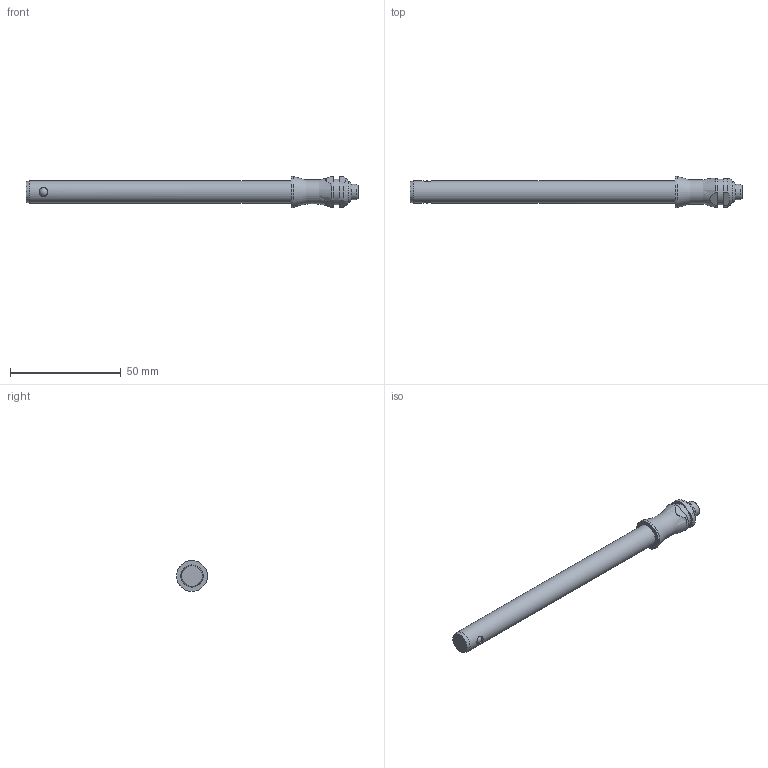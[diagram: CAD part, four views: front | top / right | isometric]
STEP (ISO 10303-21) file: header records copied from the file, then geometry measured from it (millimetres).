
FILE_DESCRIPTION( ( 'STEP AP203' ), '1' );
FILE_NAME( 'C:/Temp/Ganter_Step_05_03_2020/data/3_1/gn113_3/Stainless Steel-Ball lock pin GN 113.3-10-110 (activated).stp', '2020-03-12T08:18:39', ( 'License CC BY-ND 4.0' ), ( 'CADENAS' ), ' ', 'PARTsolutions', ' ' );
FILE_SCHEMA( ( 'CONFIG_CONTROL_DESIGN' ) );
Length unit declared in the file: millimetre
Products named in the file (1): _Stainless Steel-Ball lock pin GN 113.3-10-110 (activated)
Bounding box: 149.75 x 14 x 14 mm (x, y, z)
Volume: 12471.3 mm3; surface area: 5208.3 mm2
Topology: 1 solids, 1 shells, 30 faces, 72 edges, 45 vertices
Faces by surface type: cylinder 12, plane 11, cone 3, torus 2, sphere 2
Full cylindrical faces by diameter (mm): 4 x2, 7 x1, 10 x1, 11.6 x1, 14 x1
Entity records: 988 total; most frequent: CARTESIAN_POINT 341, DIRECTION 130, ORIENTED_EDGE 102, AXIS2_PLACEMENT_3D 56, EDGE_CURVE 51, EDGE_LOOP 46, VERTEX_POINT 39, FACE_OUTER_BOUND 38
